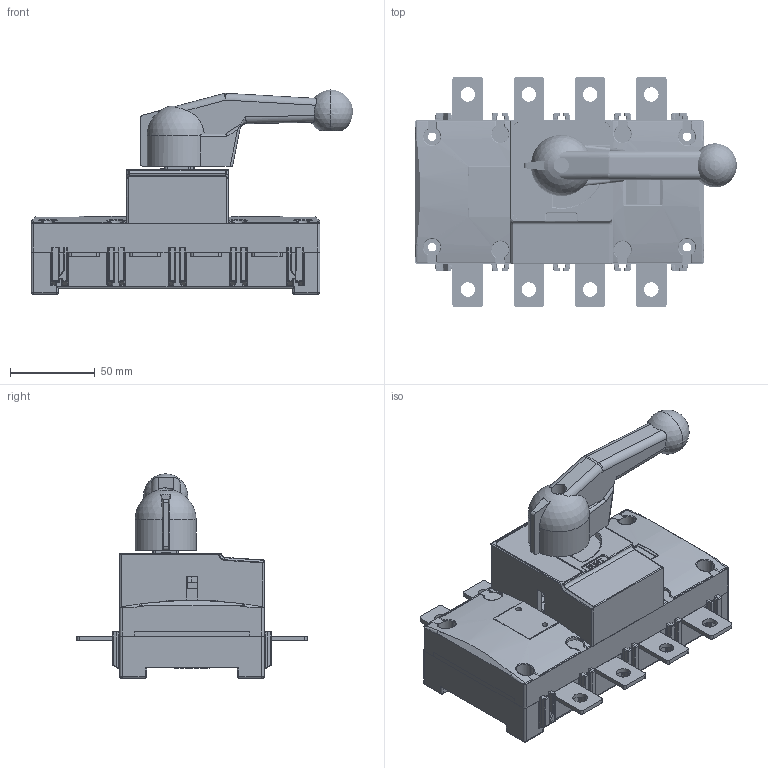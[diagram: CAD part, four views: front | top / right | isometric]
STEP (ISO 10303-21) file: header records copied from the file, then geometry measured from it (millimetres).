
FILE_DESCRIPTION((''),'2;1');
FILE_NAME('NH40_125_4_ASM','2025-03-21T',('zhuanghy'),(''),'CREO PARAMETRIC BY PTC INC, 2018070','CREO PARAMETRIC BY PTC INC, 2018070','');
FILE_SCHEMA(('AUTOMOTIVE_DESIGN { 1 0 10303 214 1 1 1 1 }'));
Products named in the file (14): PRODUCT_127947; ________630; PRODUCT_76002; ____GBT97_1__9_M4_0_8; _______GBT818__8XM4X18; __________GBT845__8XST4X22_F; _____GBT6170_M4; PRODUCT_8536; _____GBT93_4; PRODUCT_98568; NH40_125_4_1_ASM; PRODUCT_21465; NH40-125_160_202107; NH40_125_4_ASM
Assembly tree (34 placements, depth 3):
  NH40_125_4_ASM
    NH40_125_4_1_ASM
      PRODUCT_127947  x8
      ________630
      PRODUCT_76002
      ____GBT97_1__9_M4_0_8  x4
      _______GBT818__8XM4X18  x4
      __________GBT845__8XST4X22_F  x2
      _____GBT6170_M4  x5
      PRODUCT_8536
      _____GBT93_4  x4
      PRODUCT_98568
    PRODUCT_21465
    NH40-125_160_202107
Bounding box: 189.38 x 135.4 x 120.2 mm (x, y, z)
Volume: 707220.5 mm3; surface area: 163766.1 mm2
Topology: 33 solids, 33 shells, 3003 faces, 7791 edges, 4775 vertices
Faces by surface type: cylinder 1266, plane 1024, bspline 247, torus 157, cone 148, sphere 145, extrusion 16
Entity records: 115710 total; most frequent: CARTESIAN_POINT 52844, ORIENTED_EDGE 11524, DIRECTION 10815, EDGE_CURVE 5762, AXIS2_PLACEMENT_3D 3848, VERTEX_POINT 3581, VECTOR 3119, LINE 3104
